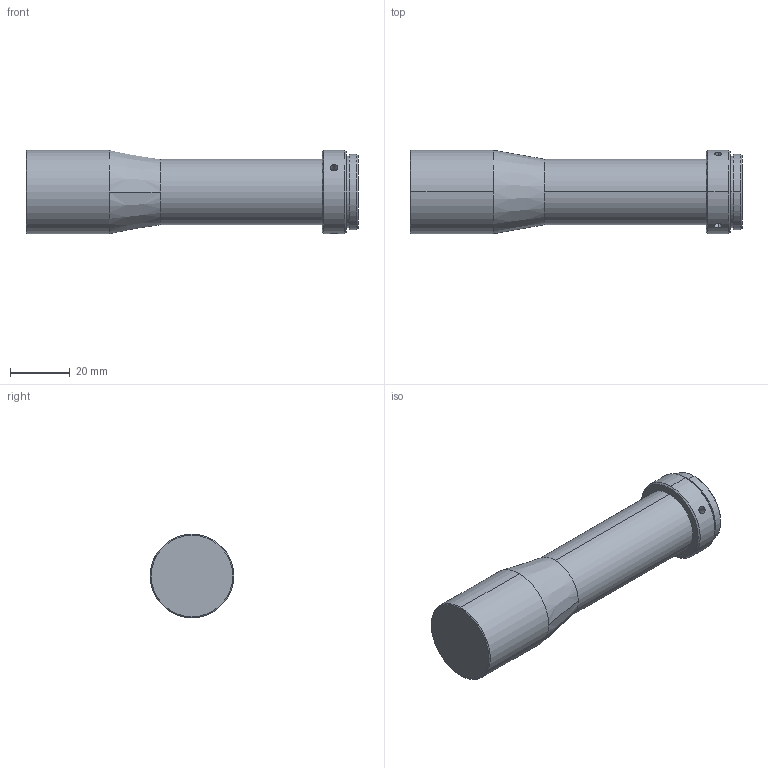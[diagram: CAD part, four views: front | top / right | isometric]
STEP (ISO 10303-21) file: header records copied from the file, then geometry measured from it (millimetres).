
FILE_DESCRIPTION (( 'STEP AP203' ), '1' );
FILE_NAME ('WWH05-150AS.STEP', '2019-12-03T02:58:53', ( 'Windows 蚚誧' ), ( '' ), 'SwSTEP 2.0', 'SolidWorks 2017', '' );
FILE_SCHEMA (( 'CONFIG_CONTROL_DESIGN' ));
Length unit declared in the file: millimetre
Products named in the file (1): WWH05-150AS
Bounding box: 111.4 x 28 x 28 mm (x, y, z)
Volume: 53120.6 mm3; surface area: 10154 mm2
Topology: 1 solids, 1 shells, 37 faces, 82 edges, 47 vertices
Faces by surface type: cone 16, cylinder 16, plane 5
Entity records: 1147 total; most frequent: CARTESIAN_POINT 263, DIRECTION 184, ORIENTED_EDGE 152, AXIS2_PLACEMENT_3D 76, EDGE_CURVE 76, VERTEX_POINT 47, EDGE_LOOP 43, CIRCLE 38
